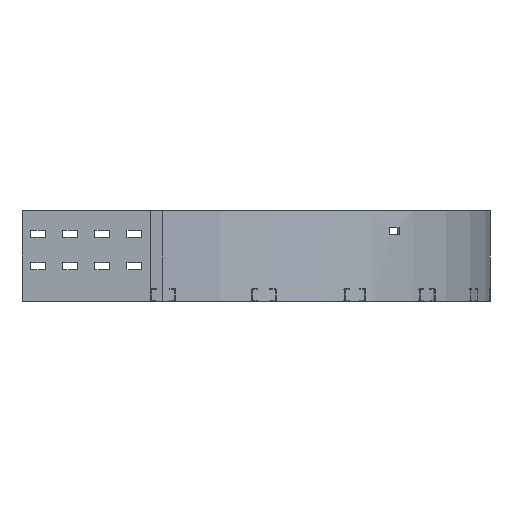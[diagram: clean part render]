
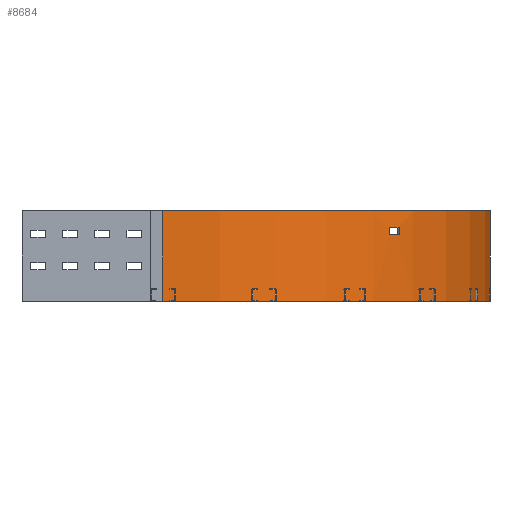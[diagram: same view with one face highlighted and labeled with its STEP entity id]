
A CAD part, front view. The second image highlights one B-rep face of the part: STEP entity #8684.
In plain terms, the highlighted cylindrical face has radius 511 mm (diameter 1022 mm), a partial arc.
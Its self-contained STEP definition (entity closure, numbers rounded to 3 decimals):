
#215=FACE_BOUND('',#1180,.T.);
#355=CYLINDRICAL_SURFACE('',#9167,511.);
#388=CIRCLE('',#9159,511.);
#393=CIRCLE('',#9166,511.);
#394=CIRCLE('',#9168,511.);
#395=CIRCLE('',#9169,511.);
#722=FACE_OUTER_BOUND('',#1179,.T.);
#1179=EDGE_LOOP('',(#5876,#5877,#5878,#5879));
#1180=EDGE_LOOP('',(#5880,#5881,#5882,#5883));
#1775=LINE('',#12145,#2731);
#1781=LINE('',#12169,#2737);
#1782=LINE('',#12174,#2738);
#1783=LINE('',#12177,#2739);
#2731=VECTOR('',#9862,304.8);
#2737=VECTOR('',#9888,304.8);
#2738=VECTOR('',#9891,304.8);
#2739=VECTOR('',#9894,304.8);
#3684=VERTEX_POINT('',#12138);
#3687=VERTEX_POINT('',#12143);
#3688=VERTEX_POINT('',#12147);
#3695=VERTEX_POINT('',#12165);
#3696=VERTEX_POINT('',#12170);
#3697=VERTEX_POINT('',#12171);
#3698=VERTEX_POINT('',#12173);
#3699=VERTEX_POINT('',#12175);
#4551=EDGE_CURVE('',#3687,#3684,#1775,.T.);
#4552=EDGE_CURVE('',#3684,#3688,#388,.T.);
#4562=EDGE_CURVE('',#3695,#3687,#393,.T.);
#4563=EDGE_CURVE('',#3688,#3695,#1781,.T.);
#4564=EDGE_CURVE('',#3696,#3697,#394,.T.);
#4565=EDGE_CURVE('',#3697,#3698,#1782,.T.);
#4566=EDGE_CURVE('',#3698,#3699,#395,.T.);
#4567=EDGE_CURVE('',#3699,#3696,#1783,.T.);
#5876=ORIENTED_EDGE('',*,*,#4551,.F.);
#5877=ORIENTED_EDGE('',*,*,#4562,.F.);
#5878=ORIENTED_EDGE('',*,*,#4563,.F.);
#5879=ORIENTED_EDGE('',*,*,#4552,.F.);
#5880=ORIENTED_EDGE('',*,*,#4564,.T.);
#5881=ORIENTED_EDGE('',*,*,#4565,.T.);
#5882=ORIENTED_EDGE('',*,*,#4566,.T.);
#5883=ORIENTED_EDGE('',*,*,#4567,.T.);
#8684=ADVANCED_FACE('',(#722,#215),#355,.T.);
#9159=AXIS2_PLACEMENT_3D('',#12148,#9865,#9866);
#9166=AXIS2_PLACEMENT_3D('',#12167,#9884,#9885);
#9167=AXIS2_PLACEMENT_3D('',#12168,#9886,#9887);
#9168=AXIS2_PLACEMENT_3D('',#12172,#9889,#9890);
#9169=AXIS2_PLACEMENT_3D('',#12176,#9892,#9893);
#9862=DIRECTION('',(0.,0.,1.));
#9865=DIRECTION('center_axis',(0.,0.,1.));
#9866=DIRECTION('ref_axis',(0.,-1.,0.));
#9884=DIRECTION('center_axis',(0.,0.,-1.));
#9885=DIRECTION('ref_axis',(0.,-1.,0.));
#9886=DIRECTION('center_axis',(0.,0.,1.));
#9887=DIRECTION('ref_axis',(0.,-1.,0.));
#9888=DIRECTION('',(0.,0.,-1.));
#9889=DIRECTION('center_axis',(0.,0.,1.));
#9890=DIRECTION('ref_axis',(0.,-1.,0.));
#9891=DIRECTION('',(0.,0.,-1.));
#9892=DIRECTION('center_axis',(0.,0.,-1.));
#9893=DIRECTION('ref_axis',(0.,-1.,0.));
#9894=DIRECTION('',(0.,0.,1.));
#12138=CARTESIAN_POINT('',(-405.5,-105.5,71.));
#12143=CARTESIAN_POINT('',(-405.5,-105.5,-71.));
#12145=CARTESIAN_POINT('',(-405.5,-105.5,-71.));
#12147=CARTESIAN_POINT('',(105.5,405.5,71.));
#12148=CARTESIAN_POINT('Origin',(-405.5,405.5,71.));
#12165=CARTESIAN_POINT('',(105.5,405.5,-71.));
#12167=CARTESIAN_POINT('Origin',(-405.5,405.5,-71.));
#12168=CARTESIAN_POINT('Origin',(-405.5,405.5,0.));
#12169=CARTESIAN_POINT('',(105.5,405.5,71.));
#12170=CARTESIAN_POINT('',(-51.981,36.522,44.));
#12171=CARTESIAN_POINT('',(-36.426,52.08,44.));
#12172=CARTESIAN_POINT('Origin',(-405.5,405.5,44.));
#12173=CARTESIAN_POINT('',(-36.426,52.08,33.));
#12174=CARTESIAN_POINT('',(-36.426,52.08,44.));
#12175=CARTESIAN_POINT('',(-51.981,36.522,33.));
#12176=CARTESIAN_POINT('Origin',(-405.5,405.5,33.));
#12177=CARTESIAN_POINT('',(-51.981,36.522,33.));
